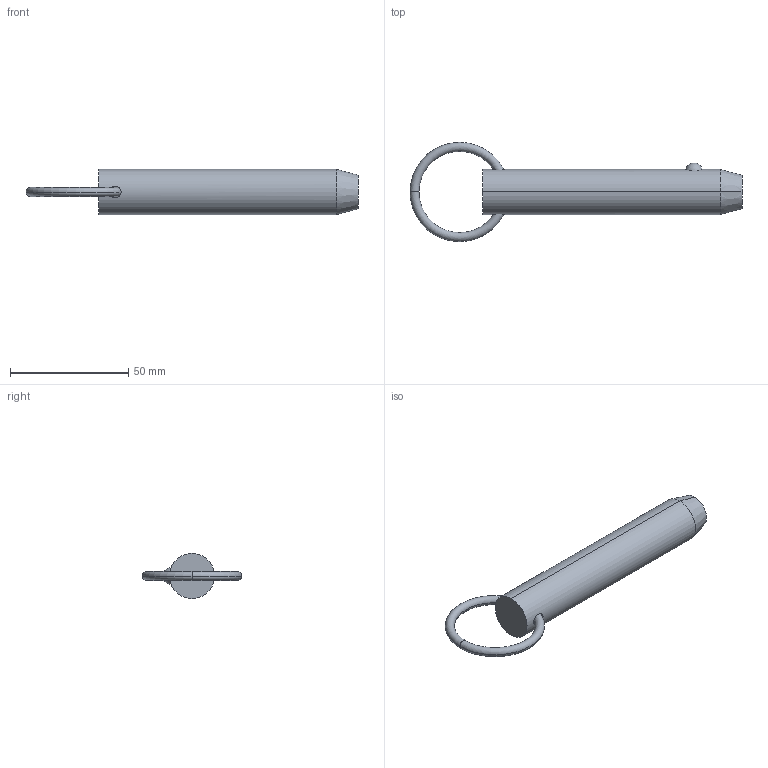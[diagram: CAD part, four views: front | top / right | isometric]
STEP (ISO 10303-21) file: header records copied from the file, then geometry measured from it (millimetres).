
FILE_DESCRIPTION (( 'STEP AP203' ), '1' );
FILE_NAME ('33010.W7530.step', '2024-11-01T10:43:52', ( '' ), ( '' ), 'SwSTEP 2.0', 'SolidWorks 2019', '' );
FILE_SCHEMA (( 'CONFIG_CONTROL_DESIGN' ));
Length unit declared in the file: millimetre
Products named in the file (3): Part1_33010.W7530; Part2_33010.W7530; 33010.W7530
Assembly tree (2 placements, depth 2):
  33010.W7530
    Part1_33010.W7530
    Part2_33010.W7530
Bounding box: 140.15 x 41.91 x 19.05 mm (x, y, z)
Volume: 31719.5 mm3; surface area: 8663.8 mm2
Topology: 2 solids, 2 shells, 16 faces, 31 edges, 18 vertices
Faces by surface type: torus 8, sphere 2, cone 2, cylinder 2, plane 2
Entity records: 893 total; most frequent: CARTESIAN_POINT 250, DIRECTION 88, ORIENTED_EDGE 62, AXIS2_PLACEMENT_3D 42, EDGE_CURVE 31, PERSON_AND_ORGANIZATION 26, CIRCLE 21, COORDINATED_UNIVERSAL_TIME_OFFSET 19
